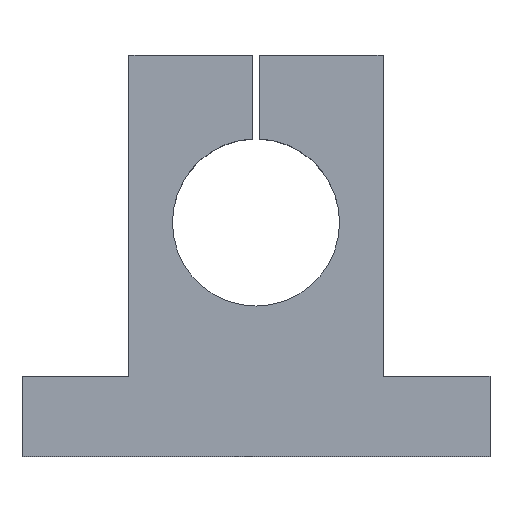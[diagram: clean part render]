
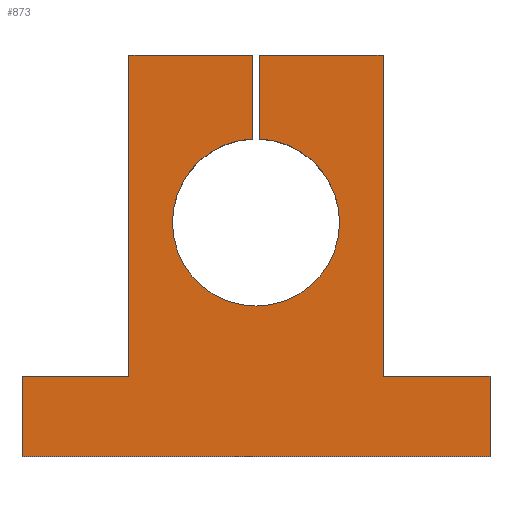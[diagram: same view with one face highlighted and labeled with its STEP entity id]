
A CAD part, top view. The second image highlights one B-rep face of the part: STEP entity #873.
In plain terms, the highlighted planar face has unit normal (0, 0, 1).
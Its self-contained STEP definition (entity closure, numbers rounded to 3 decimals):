
#51=CARTESIAN_POINT('',(47.802,32.903,24.));
#52=VERTEX_POINT('',#51);
#59=CARTESIAN_POINT('',(35.802,45.393,24.));
#60=VERTEX_POINT('',#59);
#61=CARTESIAN_POINT('',(35.302,32.903,24.));
#62=DIRECTION('',(0.0,0.0,-1.0));
#63=DIRECTION('',(-1.0,0.0,0.0));
#64=AXIS2_PLACEMENT_3D('',#61,#62,#63);
#65=CIRCLE('',#64,12.5);
#66=EDGE_CURVE('',#60,#52,#65,.T.);
#91=CARTESIAN_POINT('',(22.802,32.903,24.));
#92=VERTEX_POINT('',#91);
#101=CARTESIAN_POINT('',(35.302,32.903,24.));
#102=DIRECTION('',(0.0,0.0,-1.0));
#103=DIRECTION('',(-1.0,0.0,0.0));
#104=AXIS2_PLACEMENT_3D('',#101,#102,#103);
#105=CIRCLE('',#104,12.5);
#106=EDGE_CURVE('',#52,#92,#105,.T.);
#590=CARTESIAN_POINT('',(34.802,45.393,24.));
#591=VERTEX_POINT('',#590);
#606=CARTESIAN_POINT('',(34.802,57.903,24.));
#607=VERTEX_POINT('',#606);
#614=CARTESIAN_POINT('',(34.802,45.393,24.));
#615=DIRECTION('',(0.0,1.0,0.0));
#616=VECTOR('',#615,12.51);
#617=LINE('',#614,#616);
#618=EDGE_CURVE('',#591,#607,#617,.T.);
#633=CARTESIAN_POINT('',(35.802,57.903,24.));
#634=VERTEX_POINT('',#633);
#635=CARTESIAN_POINT('',(35.802,57.903,24.));
#636=DIRECTION('',(0.0,-1.0,0.0));
#637=VECTOR('',#636,12.51);
#638=LINE('',#635,#637);
#639=EDGE_CURVE('',#634,#60,#638,.T.);
#676=CARTESIAN_POINT('',(16.302,57.903,24.));
#677=VERTEX_POINT('',#676);
#684=CARTESIAN_POINT('',(16.302,57.903,24.));
#685=DIRECTION('',(1.0,0.0,0.0));
#686=VECTOR('',#685,18.5);
#687=LINE('',#684,#686);
#688=EDGE_CURVE('',#677,#607,#687,.T.);
#699=CARTESIAN_POINT('',(54.302,57.903,24.));
#700=VERTEX_POINT('',#699);
#701=CARTESIAN_POINT('',(35.802,57.903,24.));
#702=DIRECTION('',(1.0,0.0,0.0));
#703=VECTOR('',#702,18.5);
#704=LINE('',#701,#703);
#705=EDGE_CURVE('',#634,#700,#704,.T.);
#799=CARTESIAN_POINT('',(35.302,21.996,24.));
#800=DIRECTION('',(0.0,0.0,1.0));
#801=DIRECTION('',(1.0,0.0,0.0));
#802=AXIS2_PLACEMENT_3D('',#799,#800,#801);
#803=PLANE('',#802);
#804=ORIENTED_EDGE('',*,*,#618,.T.);
#805=ORIENTED_EDGE('',*,*,#688,.F.);
#806=CARTESIAN_POINT('',(16.302,9.903,24.));
#807=VERTEX_POINT('',#806);
#808=CARTESIAN_POINT('',(16.302,9.903,24.));
#809=DIRECTION('',(0.0,1.0,0.0));
#810=VECTOR('',#809,48.0);
#811=LINE('',#808,#810);
#812=EDGE_CURVE('',#807,#677,#811,.T.);
#813=ORIENTED_EDGE('',*,*,#812,.F.);
#814=CARTESIAN_POINT('',(0.302,9.903,24.));
#815=VERTEX_POINT('',#814);
#816=CARTESIAN_POINT('',(0.302,9.903,24.));
#817=DIRECTION('',(1.0,0.0,0.0));
#818=VECTOR('',#817,16.);
#819=LINE('',#816,#818);
#820=EDGE_CURVE('',#815,#807,#819,.T.);
#821=ORIENTED_EDGE('',*,*,#820,.F.);
#822=CARTESIAN_POINT('',(0.302,-2.097,24.));
#823=VERTEX_POINT('',#822);
#824=CARTESIAN_POINT('',(0.302,-2.097,24.));
#825=DIRECTION('',(0.0,1.0,0.0));
#826=VECTOR('',#825,12.);
#827=LINE('',#824,#826);
#828=EDGE_CURVE('',#823,#815,#827,.T.);
#829=ORIENTED_EDGE('',*,*,#828,.F.);
#830=CARTESIAN_POINT('',(70.302,-2.097,24.));
#831=VERTEX_POINT('',#830);
#832=CARTESIAN_POINT('',(70.302,-2.097,24.));
#833=DIRECTION('',(-1.0,0.0,0.0));
#834=VECTOR('',#833,70.);
#835=LINE('',#832,#834);
#836=EDGE_CURVE('',#831,#823,#835,.T.);
#837=ORIENTED_EDGE('',*,*,#836,.F.);
#838=CARTESIAN_POINT('',(70.302,9.903,24.));
#839=VERTEX_POINT('',#838);
#840=CARTESIAN_POINT('',(70.302,9.903,24.));
#841=DIRECTION('',(0.0,-1.0,0.0));
#842=VECTOR('',#841,12.);
#843=LINE('',#840,#842);
#844=EDGE_CURVE('',#839,#831,#843,.T.);
#845=ORIENTED_EDGE('',*,*,#844,.F.);
#846=CARTESIAN_POINT('',(54.302,9.903,24.));
#847=VERTEX_POINT('',#846);
#848=CARTESIAN_POINT('',(54.302,9.903,24.));
#849=DIRECTION('',(1.0,0.0,0.0));
#850=VECTOR('',#849,16.);
#851=LINE('',#848,#850);
#852=EDGE_CURVE('',#847,#839,#851,.T.);
#853=ORIENTED_EDGE('',*,*,#852,.F.);
#854=CARTESIAN_POINT('',(54.302,57.903,24.));
#855=DIRECTION('',(0.0,-1.0,0.0));
#856=VECTOR('',#855,48.0);
#857=LINE('',#854,#856);
#858=EDGE_CURVE('',#700,#847,#857,.T.);
#859=ORIENTED_EDGE('',*,*,#858,.F.);
#860=ORIENTED_EDGE('',*,*,#705,.F.);
#861=ORIENTED_EDGE('',*,*,#639,.T.);
#862=ORIENTED_EDGE('',*,*,#66,.T.);
#863=ORIENTED_EDGE('',*,*,#106,.T.);
#864=CARTESIAN_POINT('',(35.302,32.903,24.));
#865=DIRECTION('',(0.0,0.0,-1.0));
#866=DIRECTION('',(-1.0,0.0,0.0));
#867=AXIS2_PLACEMENT_3D('',#864,#865,#866);
#868=CIRCLE('',#867,12.5);
#869=EDGE_CURVE('',#92,#591,#868,.T.);
#870=ORIENTED_EDGE('',*,*,#869,.T.);
#871=EDGE_LOOP('',(#804,#805,#813,#821,#829,#837,#845,#853,#859,#860,#861,#862,#863,#870));
#872=FACE_OUTER_BOUND('',#871,.T.);
#873=ADVANCED_FACE('',(#872),#803,.T.);
